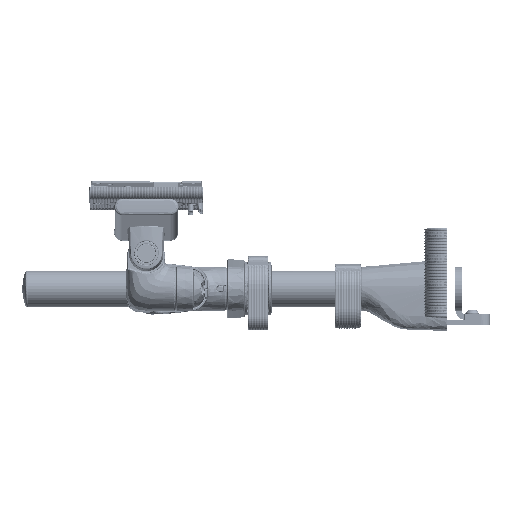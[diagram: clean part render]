
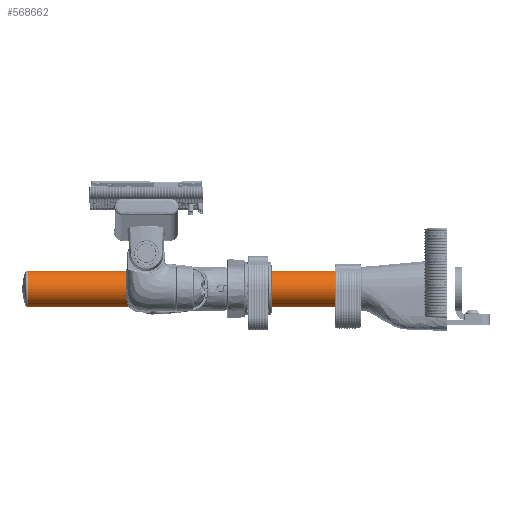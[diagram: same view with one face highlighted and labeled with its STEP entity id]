
A CAD part, left-side view. The second image highlights one B-rep face of the part: STEP entity #568662.
In plain terms, the highlighted cylindrical face has radius 19 mm (diameter 38 mm), a partial arc.
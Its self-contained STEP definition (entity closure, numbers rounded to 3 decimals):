
#8707=CYLINDRICAL_SURFACE('',#608079,19.);
#24277=FACE_BOUND('',#83483,.T.);
#24278=FACE_BOUND('',#83484,.T.);
#47520=FACE_OUTER_BOUND('',#83482,.T.);
#83482=EDGE_LOOP('',(#454380,#454381,#454382,#454383,#454384,#454385,#454386,
#454387,#454388,#454389,#454390,#454391));
#83483=EDGE_LOOP('',(#454392,#454393));
#83484=EDGE_LOOP('',(#454394,#454395));
#110264=CIRCLE('',#608026,19.);
#110288=CIRCLE('',#608080,19.);
#110289=CIRCLE('',#608081,19.);
#110290=CIRCLE('',#608082,19.);
#134380=B_SPLINE_CURVE_WITH_KNOTS('',3,(#1209251,#1209252,#1209253,#1209254),
 .UNSPECIFIED.,.F.,.F.,(4,4),(-0.84,-0.661),
 .UNSPECIFIED.);
#134383=B_SPLINE_CURVE_WITH_KNOTS('',3,(#1209288,#1209289,#1209290,#1209291),
 .UNSPECIFIED.,.F.,.F.,(4,4),(0.661,0.84),
 .UNSPECIFIED.);
#134384=B_SPLINE_CURVE_WITH_KNOTS('',3,(#1209297,#1209298,#1209299,#1209300),
 .UNSPECIFIED.,.F.,.F.,(4,4),(1.58,1.759),
 .UNSPECIFIED.);
#134387=B_SPLINE_CURVE_WITH_KNOTS('',3,(#1209334,#1209335,#1209336,#1209337),
 .UNSPECIFIED.,.F.,.F.,(4,4),(3.081,3.26),
 .UNSPECIFIED.);
#134398=B_SPLINE_CURVE_WITH_KNOTS('',3,(#1209648,#1209649,#1209650,#1209651,
#1209652,#1209653,#1209654,#1209655,#1209656,#1209657,#1209658,#1209659,
#1209660,#1209661),.UNSPECIFIED.,.F.,.F.,(4,2,2,2,2,2,4),(1.759,
1.829,2.124,2.42,2.701,2.983,
3.08),.UNSPECIFIED.);
#134399=B_SPLINE_CURVE_WITH_KNOTS('',3,(#1209665,#1209666,#1209667,#1209668,
#1209669,#1209670,#1209671,#1209672,#1209673,#1209674,#1209675,#1209676,
#1209677,#1209678,#1209679),.UNSPECIFIED.,.F.,.F.,(4,2,2,3,2,2,4),(-0.661,
-0.591,-0.295,0.,0.295,0.591,
0.661),.UNSPECIFIED.);
#164631=LINE('',#1209581,#202990);
#164632=LINE('',#1209590,#202991);
#164641=LINE('',#1209664,#203000);
#164642=LINE('',#1209680,#203001);
#202990=VECTOR('',#695810,10.);
#202991=VECTOR('',#695813,10.);
#203000=VECTOR('',#695840,10.);
#203001=VECTOR('',#695841,10.);
#250023=VERTEX_POINT('',#1209247);
#250025=VERTEX_POINT('',#1209250);
#250027=VERTEX_POINT('',#1209271);
#250028=VERTEX_POINT('',#1209273);
#250029=VERTEX_POINT('',#1209293);
#250031=VERTEX_POINT('',#1209296);
#250033=VERTEX_POINT('',#1209317);
#250034=VERTEX_POINT('',#1209319);
#250072=VERTEX_POINT('',#1209421);
#250078=VERTEX_POINT('',#1209433);
#250113=VERTEX_POINT('',#1209579);
#250123=VERTEX_POINT('',#1209662);
#250124=VERTEX_POINT('',#1209681);
#250125=VERTEX_POINT('',#1209682);
#250126=VERTEX_POINT('',#1209684);
#250127=VERTEX_POINT('',#1209685);
#321209=EDGE_CURVE('',#250025,#250023,#134380,.T.);
#321213=EDGE_CURVE('',#250027,#250028,#134383,.T.);
#321215=EDGE_CURVE('',#250031,#250029,#134384,.T.);
#321219=EDGE_CURVE('',#250033,#250034,#134387,.T.);
#321263=EDGE_CURVE('',#250078,#250072,#110264,.T.);
#321314=EDGE_CURVE('',#250113,#250034,#164631,.T.);
#321316=EDGE_CURVE('',#250031,#250078,#164632,.T.);
#321330=EDGE_CURVE('',#250029,#250033,#134398,.T.);
#321331=EDGE_CURVE('',#250123,#250113,#110288,.T.);
#321332=EDGE_CURVE('',#250025,#250123,#164641,.T.);
#321333=EDGE_CURVE('',#250023,#250027,#134399,.T.);
#321334=EDGE_CURVE('',#250072,#250028,#164642,.T.);
#321335=EDGE_CURVE('',#250124,#250125,#110289,.T.);
#321336=EDGE_CURVE('',#250126,#250127,#110290,.T.);
#454380=ORIENTED_EDGE('',*,*,#321215,.T.);
#454381=ORIENTED_EDGE('',*,*,#321330,.T.);
#454382=ORIENTED_EDGE('',*,*,#321219,.T.);
#454383=ORIENTED_EDGE('',*,*,#321314,.F.);
#454384=ORIENTED_EDGE('',*,*,#321331,.F.);
#454385=ORIENTED_EDGE('',*,*,#321332,.F.);
#454386=ORIENTED_EDGE('',*,*,#321209,.T.);
#454387=ORIENTED_EDGE('',*,*,#321333,.T.);
#454388=ORIENTED_EDGE('',*,*,#321213,.T.);
#454389=ORIENTED_EDGE('',*,*,#321334,.F.);
#454390=ORIENTED_EDGE('',*,*,#321263,.F.);
#454391=ORIENTED_EDGE('',*,*,#321316,.F.);
#454392=ORIENTED_EDGE('',*,*,#321335,.F.);
#454393=ORIENTED_EDGE('',*,*,#321335,.T.);
#454394=ORIENTED_EDGE('',*,*,#321336,.T.);
#454395=ORIENTED_EDGE('',*,*,#321336,.F.);
#568662=ADVANCED_FACE('',(#47520,#24277,#24278),#8707,.T.);
#608026=AXIS2_PLACEMENT_3D('',#1209435,#695709,#695710);
#608079=AXIS2_PLACEMENT_3D('',#1209647,#695836,#695837);
#608080=AXIS2_PLACEMENT_3D('',#1209663,#695838,#695839);
#608081=AXIS2_PLACEMENT_3D('',#1209683,#695842,#695843);
#608082=AXIS2_PLACEMENT_3D('',#1209686,#695844,#695845);
#695709=DIRECTION('center_axis',(0.,1.,0.));
#695710=DIRECTION('ref_axis',(0.165,0.,0.986));
#695810=DIRECTION('',(0.,1.,0.));
#695813=DIRECTION('',(0.,1.,0.));
#695836=DIRECTION('center_axis',(0.,1.,0.));
#695837=DIRECTION('ref_axis',(0.,0.,
-1.));
#695838=DIRECTION('center_axis',(0.,-1.,0.));
#695839=DIRECTION('ref_axis',(0.165,0.,0.986));
#695840=DIRECTION('',(0.,-1.,0.));
#695841=DIRECTION('',(0.,-1.,0.));
#695842=DIRECTION('center_axis',(0.,1.,0.));
#695843=DIRECTION('ref_axis',(1.,0.,0.));
#695844=DIRECTION('center_axis',(0.,-1.,0.));
#695845=DIRECTION('ref_axis',(-1.,0.,0.));
#1209247=CARTESIAN_POINT('',(-4.927,97.547,18.35));
#1209250=CARTESIAN_POINT('',(-3.553,96.332,18.665));
#1209251=CARTESIAN_POINT('Ctrl Pts',(-3.553,96.332,
18.665));
#1209252=CARTESIAN_POINT('Ctrl Pts',(-4.063,96.681,
18.568));
#1209253=CARTESIAN_POINT('Ctrl Pts',(-4.526,97.097,
18.458));
#1209254=CARTESIAN_POINT('Ctrl Pts',(-4.927,97.547,
18.35));
#1209271=CARTESIAN_POINT('',(-4.927,110.153,18.35));
#1209273=CARTESIAN_POINT('',(-3.553,111.368,18.665));
#1209288=CARTESIAN_POINT('Ctrl Pts',(-4.927,110.153,
18.35));
#1209289=CARTESIAN_POINT('Ctrl Pts',(-4.526,110.603,
18.458));
#1209290=CARTESIAN_POINT('Ctrl Pts',(-4.063,111.019,
18.568));
#1209291=CARTESIAN_POINT('Ctrl Pts',(-3.553,111.368,
18.665));
#1209293=CARTESIAN_POINT('',(4.927,110.153,18.35));
#1209296=CARTESIAN_POINT('',(3.553,111.368,18.665));
#1209297=CARTESIAN_POINT('Ctrl Pts',(3.553,111.368,
18.665));
#1209298=CARTESIAN_POINT('Ctrl Pts',(4.063,111.019,
18.568));
#1209299=CARTESIAN_POINT('Ctrl Pts',(4.526,110.603,
18.458));
#1209300=CARTESIAN_POINT('Ctrl Pts',(4.927,110.153,18.35));
#1209317=CARTESIAN_POINT('',(4.927,97.547,18.35));
#1209319=CARTESIAN_POINT('',(3.553,96.332,18.665));
#1209334=CARTESIAN_POINT('Ctrl Pts',(4.927,97.547,18.35));
#1209335=CARTESIAN_POINT('Ctrl Pts',(4.526,97.097,
18.458));
#1209336=CARTESIAN_POINT('Ctrl Pts',(4.063,96.681,18.568));
#1209337=CARTESIAN_POINT('Ctrl Pts',(3.553,96.332,
18.665));
#1209421=CARTESIAN_POINT('',(-3.553,440.,18.665));
#1209433=CARTESIAN_POINT('',(3.553,440.,18.665));
#1209435=CARTESIAN_POINT('Origin',(0.,440.,0.));
#1209579=CARTESIAN_POINT('',(3.553,90.,18.665));
#1209581=CARTESIAN_POINT('',(3.553,90.,18.665));
#1209590=CARTESIAN_POINT('',(3.553,90.,18.665));
#1209647=CARTESIAN_POINT('Origin',(0.,90.,
0.));
#1209648=CARTESIAN_POINT('Ctrl Pts',(4.927,110.153,18.35));
#1209649=CARTESIAN_POINT('Ctrl Pts',(5.084,109.976,
18.308));
#1209650=CARTESIAN_POINT('Ctrl Pts',(5.232,109.794,
18.266));
#1209651=CARTESIAN_POINT('Ctrl Pts',(5.952,108.834,
18.054));
#1209652=CARTESIAN_POINT('Ctrl Pts',(6.436,107.895,
17.88));
#1209653=CARTESIAN_POINT('Ctrl Pts',(7.072,105.895,
17.638));
#1209654=CARTESIAN_POINT('Ctrl Pts',(7.223,104.835,
17.573));
#1209655=CARTESIAN_POINT('Ctrl Pts',(7.223,102.912,
17.573));
#1209656=CARTESIAN_POINT('Ctrl Pts',(7.086,101.9,
17.632));
#1209657=CARTESIAN_POINT('Ctrl Pts',(6.506,99.981,
17.854));
#1209658=CARTESIAN_POINT('Ctrl Pts',(6.063,99.073,18.015));
#1209659=CARTESIAN_POINT('Ctrl Pts',(5.35,98.053,
18.232));
#1209660=CARTESIAN_POINT('Ctrl Pts',(5.147,97.795,
18.291));
#1209661=CARTESIAN_POINT('Ctrl Pts',(4.927,97.547,
18.35));
#1209662=CARTESIAN_POINT('',(-3.553,90.,18.665));
#1209663=CARTESIAN_POINT('Origin',(0.,90.,0.));
#1209664=CARTESIAN_POINT('',(-3.553,90.,18.665));
#1209665=CARTESIAN_POINT('Ctrl Pts',(-4.927,97.547,
18.35));
#1209666=CARTESIAN_POINT('Ctrl Pts',(-5.084,97.724,18.308));
#1209667=CARTESIAN_POINT('Ctrl Pts',(-5.232,97.906,
18.266));
#1209668=CARTESIAN_POINT('Ctrl Pts',(-5.952,98.866,
18.054));
#1209669=CARTESIAN_POINT('Ctrl Pts',(-6.436,99.805,
17.88));
#1209670=CARTESIAN_POINT('Ctrl Pts',(-7.072,101.805,
17.638));
#1209671=CARTESIAN_POINT('Ctrl Pts',(-7.223,102.865,
17.573));
#1209672=CARTESIAN_POINT('Ctrl Pts',(-7.223,103.85,17.573));
#1209673=CARTESIAN_POINT('Ctrl Pts',(-7.223,104.835,
17.573));
#1209674=CARTESIAN_POINT('Ctrl Pts',(-7.072,105.895,
17.638));
#1209675=CARTESIAN_POINT('Ctrl Pts',(-6.436,107.895,
17.88));
#1209676=CARTESIAN_POINT('Ctrl Pts',(-5.952,108.834,
18.054));
#1209677=CARTESIAN_POINT('Ctrl Pts',(-5.232,109.794,
18.266));
#1209678=CARTESIAN_POINT('Ctrl Pts',(-5.084,109.976,
18.308));
#1209679=CARTESIAN_POINT('Ctrl Pts',(-4.927,110.153,
18.35));
#1209680=CARTESIAN_POINT('',(-3.553,90.,18.665));
#1209681=CARTESIAN_POINT('',(-15.103,103.85,-11.529));
#1209682=CARTESIAN_POINT('',(-12.523,103.85,14.289));
#1209683=CARTESIAN_POINT('Origin',(0.,103.85,0.));
#1209684=CARTESIAN_POINT('',(15.103,103.85,-11.529));
#1209685=CARTESIAN_POINT('',(12.523,103.85,14.289));
#1209686=CARTESIAN_POINT('Origin',(0.,103.85,0.));
